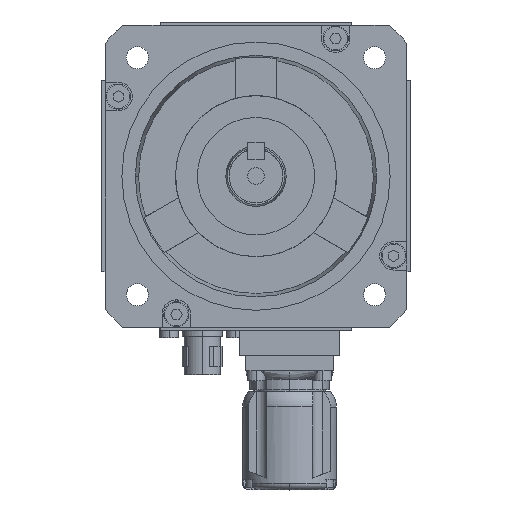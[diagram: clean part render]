
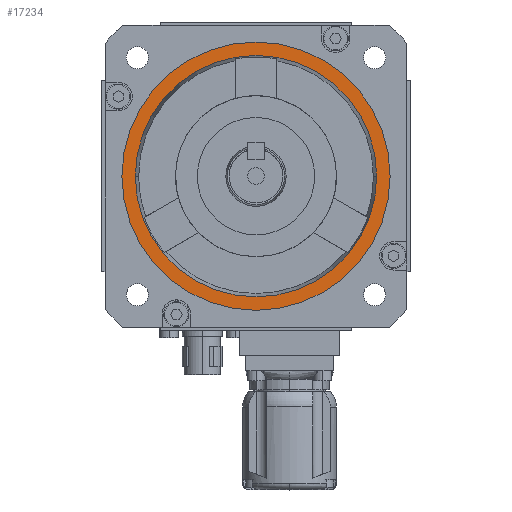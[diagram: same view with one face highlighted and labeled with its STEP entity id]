
A CAD part, top view. The second image highlights one B-rep face of the part: STEP entity #17234.
In plain terms, the highlighted planar face has unit normal (0, 0, 1).
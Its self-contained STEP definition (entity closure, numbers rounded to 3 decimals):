
#1684 = DIRECTION ( 'NONE',  ( 1., 0., 0. ) ) ;
#1685 = DIRECTION ( 'NONE',  ( 0., 0., 1. ) ) ;
#1686 = CARTESIAN_POINT ( 'NONE',  ( 0., 0., 5. ) ) ;
#1687 = AXIS2_PLACEMENT_3D ( 'NONE', #1686, #1685, #1684 ) ;
#1688 = CIRCLE ( 'NONE', #1687, 36. ) ;
#1846 = DIRECTION ( 'NONE',  ( 1., 0., 0. ) ) ;
#1847 = DIRECTION ( 'NONE',  ( 0., 0., 1. ) ) ;
#1848 = CARTESIAN_POINT ( 'NONE',  ( 0., 0., 5. ) ) ;
#1849 = AXIS2_PLACEMENT_3D ( 'NONE', #1848, #1847, #1846 ) ;
#1850 = CIRCLE ( 'NONE', #1849, 40. ) ;
#1851 = DIRECTION ( 'NONE',  ( 1., 0., 0. ) ) ;
#1852 = DIRECTION ( 'NONE',  ( 0., 0., 1. ) ) ;
#1853 = CARTESIAN_POINT ( 'NONE',  ( 0., 0., 5. ) ) ;
#1854 = AXIS2_PLACEMENT_3D ( 'NONE', #1853, #1852, #1851 ) ;
#1855 = PLANE ( 'NONE',  #1854 ) ;
#1856 = FACE_BOUND ( 'NONE', #17240, .T. ) ;
#1857 = FACE_OUTER_BOUND ( 'NONE', #17235, .T. ) ;
#8028 = VERTEX_POINT ( 'NONE', #24809 ) ;
#8035 = VERTEX_POINT ( 'NONE', #24805 ) ;
#8055 = EDGE_CURVE ( 'NONE', #8035, #8028, #24852, .T. ) ;
#16077 = VERTEX_POINT ( 'NONE', #25398 ) ;
#16079 = EDGE_CURVE ( 'NONE', #16077, #16080, #25462, .T. ) ;
#16080 = VERTEX_POINT ( 'NONE', #25457 ) ;
#17155 = EDGE_CURVE ( 'NONE', #16080, #16077, #1688, .T. ) ;
#17207 = ORIENTED_EDGE ( 'NONE', *, *, #17155, .F. ) ;
#17208 = ORIENTED_EDGE ( 'NONE', *, *, #16079, .F. ) ;
#17234 = ADVANCED_FACE ( 'NONE', ( #1857, #1856 ), #1855, .T. ) ;
#17235 = EDGE_LOOP ( 'NONE', ( #17236, #17239 ) ) ;
#17236 = ORIENTED_EDGE ( 'NONE', *, *, #17237, .T. ) ;
#17237 = EDGE_CURVE ( 'NONE', #8028, #8035, #1850, .T. ) ;
#17239 = ORIENTED_EDGE ( 'NONE', *, *, #8055, .T. ) ;
#17240 = EDGE_LOOP ( 'NONE', ( #17207, #17208 ) ) ;
#24805 = CARTESIAN_POINT ( 'NONE',  ( 40., 0., 5. ) ) ;
#24809 = CARTESIAN_POINT ( 'NONE',  ( -40., 0., 5. ) ) ;
#24848 = DIRECTION ( 'NONE',  ( 1., 0., 0. ) ) ;
#24849 = DIRECTION ( 'NONE',  ( 0., 0., 1. ) ) ;
#24850 = CARTESIAN_POINT ( 'NONE',  ( 0., 0., 5. ) ) ;
#24851 = AXIS2_PLACEMENT_3D ( 'NONE', #24850, #24849, #24848 ) ;
#24852 = CIRCLE ( 'NONE', #24851, 40. ) ;
#25398 = CARTESIAN_POINT ( 'NONE',  ( -36., 0., 5. ) ) ;
#25457 = CARTESIAN_POINT ( 'NONE',  ( 36., 0., 5. ) ) ;
#25458 = DIRECTION ( 'NONE',  ( 1., 0., 0. ) ) ;
#25459 = DIRECTION ( 'NONE',  ( 0., 0., 1. ) ) ;
#25460 = CARTESIAN_POINT ( 'NONE',  ( 0., 0., 5. ) ) ;
#25461 = AXIS2_PLACEMENT_3D ( 'NONE', #25460, #25459, #25458 ) ;
#25462 = CIRCLE ( 'NONE', #25461, 36. ) ;
